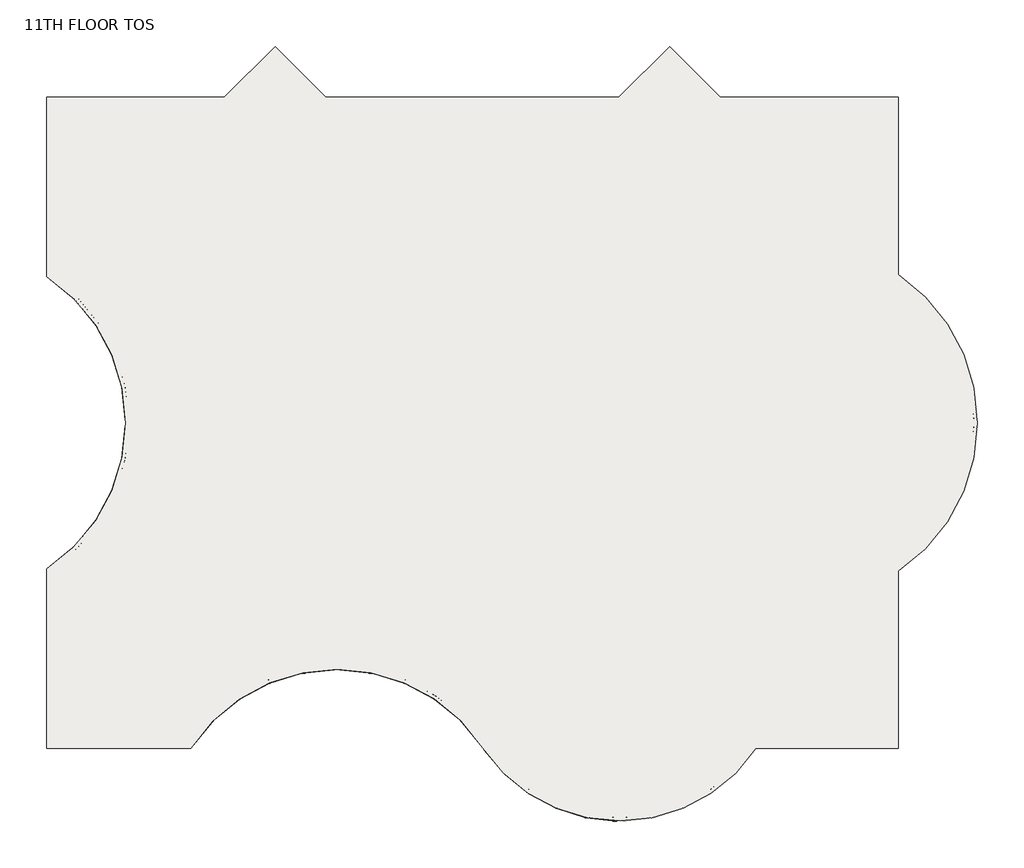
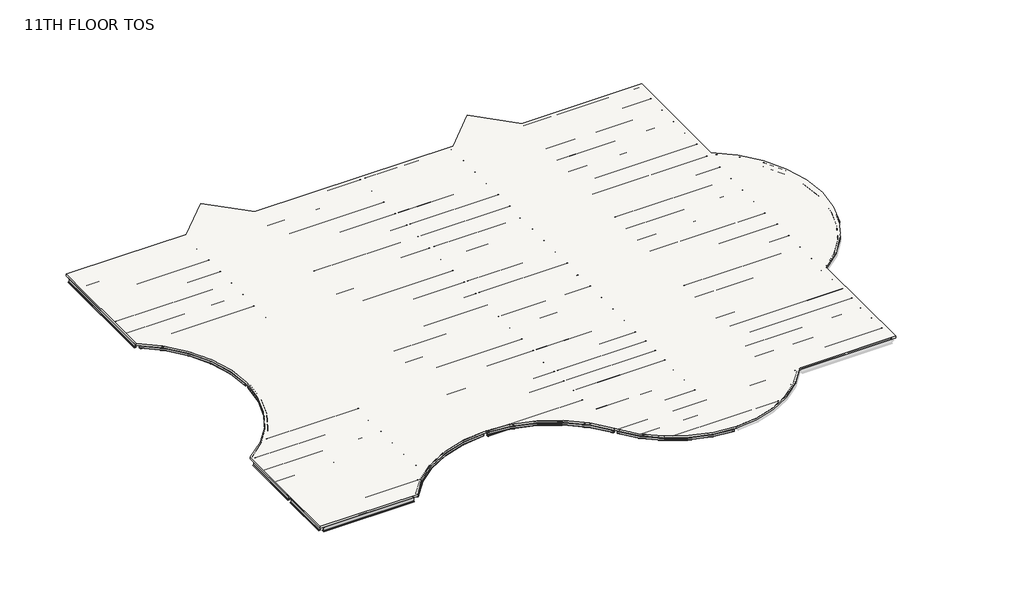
# One storey, part 1 of 2: 86 beams, 1 slab.
"""IFC4 building model written with IfcOpenShell, lengths in millimetres."""

from ifc_helpers import new_model, si_unit, frame, origin, place, context, project, spatial, polyline, circle_curve, transform, mapped, element, save
from ifc_brep_helpers import plane_surface, cylinder_surface, revolved_surface, advanced_brep
from components import m_hss_square_hss203_2x203_2x9_5_914ff4eb, m_hss_square_hss203_2x203_2x9_5_0e3d8e6e, m_hss_square_hss203_2x203_2x9_5_16dc1c03, m_hss_square_hss203_2x203_2x9_5_18346204, m_hss_square_hss203_2x203_2x9_5_d5f1e8c4, ub_universal_beams_ub254x102x28_4e7f3726, ub_universal_beams_ub305x165x40_c4d0385b, ub_universal_beams_ub305x165x40_d3abc31d, ub_universal_beams_ub305x165x40_0c73730f, ub_universal_beams_ub305x165x40_2a963f0c, ub_universal_beams_ub305x165x40_0a5f2f96, ub_universal_beams_ub305x165x40_d1f7c369, ub_universal_beams_ub305x165x40_83d7b7d5, ub_universal_beams_ub305x165x40_729a4ea5, ub_universal_beams_ub305x165x40_71dfa851, ub_universal_beams_ub305x165x40_619b5398, ub_universal_beams_ub305x165x40_c3492db1, ub_universal_beams_ub305x165x40_8f1c350d, ub_universal_beams_ub305x165x40_3afb5f90, ub_universal_beams_ub305x165x40_767d1929, ub_universal_beams_ub305x165x40_5941ca45, ub_universal_beams_ub356x171x51_ef72dcdd, ub_universal_beams_ub356x171x51_7f80702c, ub_universal_beams_ub356x171x51_dfc36663, ub_universal_beams_ub356x171x51_405a853e, ub_universal_beams_ub356x171x51_e47b7055, ub_universal_beams_ub356x171x51_e97f8d2e, ub_universal_beams_ub356x171x51_11d6b780, ub_universal_beams_ub356x171x51_76b2d20b, ub_universal_beams_ub356x171x51_145ecd4b, ub_universal_beams_ub356x171x51_c7dff8d2, ub_universal_beams_ub356x171x51_834c6e34, ub_universal_beams_ub356x171x51_a38b99de, ub_universal_beams_ub356x171x51_d8f4cdde, ub_universal_beams_ub356x171x51_8094f821, ub_universal_beams_ub356x171x51_e661f2e4, ub_universal_beams_ub356x171x51_3ee91673, ub_universal_beams_ub356x171x51_a871b283, ub_universal_beams_ub356x171x51_741bae58

model = new_model("IFC4")

# Units and contexts
model_context = context("Model", 3, world=origin())
ifc_project = project(units=[si_unit("LENGTHUNIT", "METRE", prefix="MILLI")], contexts=[model_context])

# Site, building, storey
site = spatial("IfcSite", under=ifc_project)
building = spatial("IfcBuilding", under=site)
storey = spatial("IfcBuildingStorey", under=building, Name="11TH FLOOR TOS", Elevation=50139.6)

# Beams
placement = place(None, origin())
m_hss_square_hss203_2x203_2x9_5_shape = m_hss_square_hss203_2x203_2x9_5_914ff4eb(model_context)
element("IfcBeam", 1, ObjectType="M_HSS Square : HSS203.2X203.2X9.5", at=placement, inside=storey, context=model_context, shape_type="MappedRepresentation", body=[
    mapped(m_hss_square_hss203_2x203_2x9_5_shape, transform((22710.575, 155.575, 50038.1), x_axis=(-0.552849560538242, 0.8332810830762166, 0.0), y_axis=(-0.8332810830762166, -0.552849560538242, 0.0), z_axis=(0.0, 0.0, 1.0))),
])
m_hss_square_hss203_2x203_2x9_5_2_shape = m_hss_square_hss203_2x203_2x9_5_0e3d8e6e(model_context)
element("IfcBeam", 2, ObjectType="M_HSS Square : HSS203.2X203.2X9.5", at=placement, inside=storey, context=model_context, shape_type="MappedRepresentation", body=[
    mapped(m_hss_square_hss203_2x203_2x9_5_2_shape, transform((155.575, 9299.575, 50038.1), x_axis=(0.8332810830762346, 0.5528495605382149, 0.0), y_axis=(-0.5528495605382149, 0.8332810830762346, 0.0), z_axis=(0.0, 0.0, 1.0))),
])
m_hss_square_hss203_2x203_2x9_5_3_shape = m_hss_square_hss203_2x203_2x9_5_16dc1c03(model_context)
element("IfcBeam", 3, ObjectType="M_HSS Square : HSS203.2X203.2X9.5", at=placement, inside=storey, context=model_context, shape_type="MappedRepresentation", body=[
    mapped(m_hss_square_hss203_2x203_2x9_5_3_shape, transform((155.575, 24539.575, 50038.1), x_axis=(0.8332810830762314, -0.5528495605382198, 0.0), y_axis=(0.5528495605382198, 0.8332810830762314, 0.0), z_axis=(0.0, 0.0, 1.0))),
])
m_hss_square_hss203_2x203_2x9_5_4_shape = m_hss_square_hss203_2x203_2x9_5_18346204(model_context)
element("IfcBeam", 4, ObjectType="M_HSS Square : HSS203.2X203.2X9.5", at=placement, inside=storey, context=model_context, shape_type="MappedRepresentation", body=[
    mapped(m_hss_square_hss203_2x203_2x9_5_4_shape, transform((29734.7266693, -3601.398624, 50038.1), x_axis=(-0.9999968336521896, -0.0025164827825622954, 0.0), y_axis=(0.0025164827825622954, -0.9999968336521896, 0.0), z_axis=(0.0, 0.0, 1.0))),
])
m_hss_square_hss203_2x203_2x9_5_5_shape = m_hss_square_hss203_2x203_2x9_5_d5f1e8c4(model_context)
element("IfcBeam", 5, ObjectType="M_HSS Square : HSS203.2X203.2X9.5", at=placement, inside=storey, context=model_context, shape_type="MappedRepresentation", body=[
    mapped(m_hss_square_hss203_2x203_2x9_5_5_shape, transform((15096.4572854, 4244.5731081, 50038.1), x_axis=(-0.9999997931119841, 0.0006432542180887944, 0.0), y_axis=(-0.0006432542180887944, -0.9999997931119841, 0.0), z_axis=(0.0, 0.0, 1.0))),
])
ub_universal_beams_ub254x102x28_shape = ub_universal_beams_ub254x102x28_4e7f3726(model_context)
element("IfcBeam", 6, ObjectType="UB-Universal Beams : UB254x102x28", at=placement, inside=storey, context=model_context, shape_type="MappedRepresentation", body=[
    mapped(ub_universal_beams_ub254x102x28_shape, transform((9299.575, 3210.915913, 50009.4), x_axis=(0.0, -1.0, 0.0), y_axis=(1.0, 0.0, 0.0), z_axis=(0.0, 0.0, 1.0))),
])
ub_universal_beams_ub305x165x40_shape = ub_universal_beams_ub305x165x40_c4d0385b(model_context)
element("IfcBeam", 7, ObjectType="UB-Universal Beams : UB305x165x40", at=placement, inside=storey, context=model_context, shape_type="MappedRepresentation", body=[
    mapped(ub_universal_beams_ub305x165x40_shape, transform((4727.575, 30635.575, 49987.9), x_axis=(1.0, 0.0, 0.0), y_axis=(0.0, 1.0, 0.0), z_axis=(0.0, 0.0, 1.0))),
])
element("IfcBeam", 8, ObjectType="UB-Universal Beams : UB305x165x40", at=placement, inside=storey, context=model_context, shape_type="MappedRepresentation", body=[
    mapped(ub_universal_beams_ub305x165x40_shape, transform((4727.575, 29111.575, 49987.9), x_axis=(1.0, 0.0, 0.0), y_axis=(0.0, 1.0, 0.0), z_axis=(0.0, 0.0, 1.0))),
])
element("IfcBeam", 9, ObjectType="UB-Universal Beams : UB305x165x40", at=placement, inside=storey, context=model_context, shape_type="MappedRepresentation", body=[
    mapped(ub_universal_beams_ub305x165x40_shape, transform((4727.575, 27587.575, 49987.9), x_axis=(1.0, 0.0, 0.0), y_axis=(0.0, 1.0, 0.0), z_axis=(0.0, 0.0, 1.0))),
])
element("IfcBeam", 10, ObjectType="UB-Universal Beams : UB305x165x40", at=placement, inside=storey, context=model_context, shape_type="MappedRepresentation", body=[
    mapped(ub_universal_beams_ub305x165x40_shape, transform((4727.575, 26063.575, 49987.9), x_axis=(1.0, 0.0, 0.0), y_axis=(0.0, 1.0, 0.0), z_axis=(0.0, 0.0, 1.0))),
])
element("IfcBeam", 11, ObjectType="UB-Universal Beams : UB305x165x40", at=placement, inside=storey, context=model_context, shape_type="MappedRepresentation", body=[
    mapped(ub_universal_beams_ub305x165x40_shape, transform((4727.575, 4727.575, 49987.9), x_axis=(-1.0, 0.0, 0.0), y_axis=(0.0, -1.0, 0.0), z_axis=(0.0, 0.0, 1.0))),
])
element("IfcBeam", 12, ObjectType="UB-Universal Beams : UB305x165x40", at=placement, inside=storey, context=model_context, shape_type="MappedRepresentation", body=[
    mapped(ub_universal_beams_ub305x165x40_shape, transform((4727.575, 6251.575, 49987.9), x_axis=(-1.0, 0.0, 0.0), y_axis=(0.0, -1.0, 0.0), z_axis=(0.0, 0.0, 1.0))),
])
element("IfcBeam", 13, ObjectType="UB-Universal Beams : UB305x165x40", at=placement, inside=storey, context=model_context, shape_type="MappedRepresentation", body=[
    mapped(ub_universal_beams_ub305x165x40_shape, transform((4727.575, 7775.575, 49987.9), x_axis=(-1.0, 0.0, 0.0), y_axis=(0.0, -1.0, 0.0), z_axis=(0.0, 0.0, 1.0))),
])
ub_universal_beams_ub305x165x40_2_shape = ub_universal_beams_ub305x165x40_d3abc31d(model_context)
element("IfcBeam", 14, ObjectType="UB-Universal Beams : UB305x165x40", at=placement, inside=storey, context=model_context, shape_type="MappedRepresentation", body=[
    mapped(ub_universal_beams_ub305x165x40_2_shape, transform((11885.575, 28938.325, 49987.9), x_axis=(1.0, 0.0, 0.0), y_axis=(0.0, 1.0, 0.0), z_axis=(0.0, 0.0, 1.0))),
])
element("IfcBeam", 15, ObjectType="UB-Universal Beams : UB305x165x40", at=placement, inside=storey, context=model_context, shape_type="MappedRepresentation", body=[
    mapped(ub_universal_beams_ub305x165x40_2_shape, transform((11885.575, 27472.075, 49987.9), x_axis=(1.0, 0.0, 0.0), y_axis=(0.0, 1.0, 0.0), z_axis=(0.0, 0.0, 1.0))),
])
element("IfcBeam", 16, ObjectType="UB-Universal Beams : UB305x165x40", at=placement, inside=storey, context=model_context, shape_type="MappedRepresentation", body=[
    mapped(ub_universal_beams_ub305x165x40_2_shape, transform((11885.575, 26005.825, 49987.9), x_axis=(1.0, 0.0, 0.0), y_axis=(0.0, 1.0, 0.0), z_axis=(0.0, 0.0, 1.0))),
])
element("IfcBeam", 17, ObjectType="UB-Universal Beams : UB305x165x40", at=placement, inside=storey, context=model_context, shape_type="MappedRepresentation", body=[
    mapped(ub_universal_beams_ub305x165x40_2_shape, transform((11885.575, 23015.575, 49987.9), x_axis=(1.0, 0.0, 0.0), y_axis=(0.0, 1.0, 0.0), z_axis=(0.0, 0.0, 1.0))),
])
element("IfcBeam", 18, ObjectType="UB-Universal Beams : UB305x165x40", at=placement, inside=storey, context=model_context, shape_type="MappedRepresentation", body=[
    mapped(ub_universal_beams_ub305x165x40_2_shape, transform((11885.575, 21491.575, 49987.9), x_axis=(1.0, 0.0, 0.0), y_axis=(0.0, 1.0, 0.0), z_axis=(0.0, 0.0, 1.0))),
])
element("IfcBeam", 19, ObjectType="UB-Universal Beams : UB305x165x40", at=placement, inside=storey, context=model_context, shape_type="MappedRepresentation", body=[
    mapped(ub_universal_beams_ub305x165x40_2_shape, transform((11885.575, 19967.575, 49987.9), x_axis=(1.0, 0.0, 0.0), y_axis=(0.0, 1.0, 0.0), z_axis=(0.0, 0.0, 1.0))),
])
element("IfcBeam", 20, ObjectType="UB-Universal Beams : UB305x165x40", at=placement, inside=storey, context=model_context, shape_type="MappedRepresentation", body=[
    mapped(ub_universal_beams_ub305x165x40_2_shape, transform((11885.575, 18443.575, 49987.9), x_axis=(1.0, 0.0, 0.0), y_axis=(0.0, 1.0, 0.0), z_axis=(0.0, 0.0, 1.0))),
])
element("IfcBeam", 21, ObjectType="UB-Universal Beams : UB305x165x40", at=placement, inside=storey, context=model_context, shape_type="MappedRepresentation", body=[
    mapped(ub_universal_beams_ub305x165x40_2_shape, transform((11885.575, 15395.575, 49987.9), x_axis=(1.0, 0.0, 0.0), y_axis=(0.0, 1.0, 0.0), z_axis=(0.0, 0.0, 1.0))),
])
element("IfcBeam", 22, ObjectType="UB-Universal Beams : UB305x165x40", at=placement, inside=storey, context=model_context, shape_type="MappedRepresentation", body=[
    mapped(ub_universal_beams_ub305x165x40_2_shape, transform((11885.575, 13871.575, 49987.9), x_axis=(1.0, 0.0, 0.0), y_axis=(0.0, 1.0, 0.0), z_axis=(0.0, 0.0, 1.0))),
])
element("IfcBeam", 23, ObjectType="UB-Universal Beams : UB305x165x40", at=placement, inside=storey, context=model_context, shape_type="MappedRepresentation", body=[
    mapped(ub_universal_beams_ub305x165x40_2_shape, transform((11885.575, 12347.575, 49987.9), x_axis=(1.0, 0.0, 0.0), y_axis=(0.0, 1.0, 0.0), z_axis=(0.0, 0.0, 1.0))),
])
element("IfcBeam", 24, ObjectType="UB-Universal Beams : UB305x165x40", at=placement, inside=storey, context=model_context, shape_type="MappedRepresentation", body=[
    mapped(ub_universal_beams_ub305x165x40_2_shape, transform((11885.575, 10823.575, 49987.9), x_axis=(1.0, 0.0, 0.0), y_axis=(0.0, 1.0, 0.0), z_axis=(0.0, 0.0, 1.0))),
])
element("IfcBeam", 25, ObjectType="UB-Universal Beams : UB305x165x40", at=placement, inside=storey, context=model_context, shape_type="MappedRepresentation", body=[
    mapped(ub_universal_beams_ub305x165x40_2_shape, transform((11885.575, 5026.1840956, 49987.9), x_axis=(-1.0, 0.0, 0.0), y_axis=(0.0, -1.0, 0.0), z_axis=(0.0, 0.0, 1.0))),
])
element("IfcBeam", 26, ObjectType="UB-Universal Beams : UB305x165x40", at=placement, inside=storey, context=model_context, shape_type="MappedRepresentation", body=[
    mapped(ub_universal_beams_ub305x165x40_2_shape, transform((11885.575, 6450.6477304, 49987.9), x_axis=(-1.0, 0.0, 0.0), y_axis=(0.0, -1.0, 0.0), z_axis=(0.0, 0.0, 1.0))),
])
element("IfcBeam", 27, ObjectType="UB-Universal Beams : UB305x165x40", at=placement, inside=storey, context=model_context, shape_type="MappedRepresentation", body=[
    mapped(ub_universal_beams_ub305x165x40_2_shape, transform((11885.575, 7875.1113652, 49987.9), x_axis=(-1.0, 0.0, 0.0), y_axis=(0.0, -1.0, 0.0), z_axis=(0.0, 0.0, 1.0))),
])
ub_universal_beams_ub305x165x40_3_shape = ub_universal_beams_ub305x165x40_0c73730f(model_context)
element("IfcBeam", 28, ObjectType="UB-Universal Beams : UB305x165x40", at=placement, inside=storey, context=model_context, shape_type="MappedRepresentation", body=[
    mapped(ub_universal_beams_ub305x165x40_3_shape, transform((18591.075, 5492.5943214, 49987.9), x_axis=(-1.0, 0.0, 0.0), y_axis=(0.0, -1.0, 0.0), z_axis=(0.0, 0.0, 1.0))),
])
element("IfcBeam", 29, ObjectType="UB-Universal Beams : UB305x165x40", at=placement, inside=storey, context=model_context, shape_type="MappedRepresentation", body=[
    mapped(ub_universal_beams_ub305x165x40_3_shape, transform((18591.075, 6761.5878809, 49987.9), x_axis=(-1.0, 0.0, 0.0), y_axis=(0.0, -1.0, 0.0), z_axis=(0.0, 0.0, 1.0))),
])
element("IfcBeam", 30, ObjectType="UB-Universal Beams : UB305x165x40", at=placement, inside=storey, context=model_context, shape_type="MappedRepresentation", body=[
    mapped(ub_universal_beams_ub305x165x40_3_shape, transform((18591.075, 8030.5814405, 49987.9), x_axis=(-1.0, 0.0, 0.0), y_axis=(0.0, -1.0, 0.0), z_axis=(0.0, 0.0, 1.0))),
])
element("IfcBeam", 31, ObjectType="UB-Universal Beams : UB305x165x40", at=placement, inside=storey, context=model_context, shape_type="MappedRepresentation", body=[
    mapped(ub_universal_beams_ub305x165x40_3_shape, transform((18591.075, 15395.575, 49987.9), x_axis=(1.0, 0.0, 0.0), y_axis=(0.0, 1.0, 0.0), z_axis=(0.0, 0.0, 1.0))),
])
element("IfcBeam", 32, ObjectType="UB-Universal Beams : UB305x165x40", at=placement, inside=storey, context=model_context, shape_type="MappedRepresentation", body=[
    mapped(ub_universal_beams_ub305x165x40_3_shape, transform((18591.075, 13871.575, 49987.9), x_axis=(1.0, 0.0, 0.0), y_axis=(0.0, 1.0, 0.0), z_axis=(0.0, 0.0, 1.0))),
])
element("IfcBeam", 33, ObjectType="UB-Universal Beams : UB305x165x40", at=placement, inside=storey, context=model_context, shape_type="MappedRepresentation", body=[
    mapped(ub_universal_beams_ub305x165x40_3_shape, transform((18591.075, 12347.575, 49987.9), x_axis=(1.0, 0.0, 0.0), y_axis=(0.0, 1.0, 0.0), z_axis=(0.0, 0.0, 1.0))),
])
element("IfcBeam", 34, ObjectType="UB-Universal Beams : UB305x165x40", at=placement, inside=storey, context=model_context, shape_type="MappedRepresentation", body=[
    mapped(ub_universal_beams_ub305x165x40_3_shape, transform((18591.075, 10823.575, 49987.9), x_axis=(1.0, 0.0, 0.0), y_axis=(0.0, 1.0, 0.0), z_axis=(0.0, 0.0, 1.0))),
])
ub_universal_beams_ub305x165x40_4_shape = ub_universal_beams_ub305x165x40_2a963f0c(model_context)
element("IfcBeam", 35, ObjectType="UB-Universal Beams : UB305x165x40", at=placement, inside=storey, context=model_context, shape_type="MappedRepresentation", body=[
    mapped(ub_universal_beams_ub305x165x40_4_shape, transform((26211.075, 15395.575, 49987.9), x_axis=(1.0, 0.0, 0.0), y_axis=(0.0, 1.0, 0.0), z_axis=(0.0, 0.0, 1.0))),
])
element("IfcBeam", 36, ObjectType="UB-Universal Beams : UB305x165x40", at=placement, inside=storey, context=model_context, shape_type="MappedRepresentation", body=[
    mapped(ub_universal_beams_ub305x165x40_4_shape, transform((26211.075, 13871.575, 49987.9), x_axis=(1.0, 0.0, 0.0), y_axis=(0.0, 1.0, 0.0), z_axis=(0.0, 0.0, 1.0))),
])
element("IfcBeam", 37, ObjectType="UB-Universal Beams : UB305x165x40", at=placement, inside=storey, context=model_context, shape_type="MappedRepresentation", body=[
    mapped(ub_universal_beams_ub305x165x40_4_shape, transform((26211.075, 12347.575, 49987.9), x_axis=(1.0, 0.0, 0.0), y_axis=(0.0, 1.0, 0.0), z_axis=(0.0, 0.0, 1.0))),
])
element("IfcBeam", 38, ObjectType="UB-Universal Beams : UB305x165x40", at=placement, inside=storey, context=model_context, shape_type="MappedRepresentation", body=[
    mapped(ub_universal_beams_ub305x165x40_4_shape, transform((26211.075, 10823.575, 49987.9), x_axis=(1.0, 0.0, 0.0), y_axis=(0.0, 1.0, 0.0), z_axis=(0.0, 0.0, 1.0))),
])
element("IfcBeam", 39, ObjectType="UB-Universal Beams : UB305x165x40", at=placement, inside=storey, context=model_context, shape_type="MappedRepresentation", body=[
    mapped(ub_universal_beams_ub305x165x40_4_shape, transform((26211.075, 5508.325, 49987.9), x_axis=(-1.0, 0.0, 0.0), y_axis=(0.0, -1.0, 0.0), z_axis=(0.0, 0.0, 1.0))),
])
element("IfcBeam", 40, ObjectType="UB-Universal Beams : UB305x165x40", at=placement, inside=storey, context=model_context, shape_type="MappedRepresentation", body=[
    mapped(ub_universal_beams_ub305x165x40_4_shape, transform((26211.075, 6772.075, 49987.9), x_axis=(-1.0, 0.0, 0.0), y_axis=(0.0, -1.0, 0.0), z_axis=(0.0, 0.0, 1.0))),
])
element("IfcBeam", 41, ObjectType="UB-Universal Beams : UB305x165x40", at=placement, inside=storey, context=model_context, shape_type="MappedRepresentation", body=[
    mapped(ub_universal_beams_ub305x165x40_4_shape, transform((26211.075, 8035.825, 49987.9), x_axis=(-1.0, 0.0, 0.0), y_axis=(0.0, -1.0, 0.0), z_axis=(0.0, 0.0, 1.0))),
])
element("IfcBeam", 42, ObjectType="UB-Universal Beams : UB305x165x40", at=placement, inside=storey, context=model_context, shape_type="MappedRepresentation", body=[
    mapped(ub_universal_beams_ub305x165x40_4_shape, transform((26211.075, 1518.575, 49987.9), x_axis=(-1.0, 0.0, 0.0), y_axis=(0.0, -1.0, 0.0), z_axis=(0.0, 0.0, 1.0))),
])
element("IfcBeam", 43, ObjectType="UB-Universal Beams : UB305x165x40", at=placement, inside=storey, context=model_context, shape_type="MappedRepresentation", body=[
    mapped(ub_universal_beams_ub305x165x40_4_shape, transform((26211.075, 2881.575, 49987.9), x_axis=(-1.0, 0.0, 0.0), y_axis=(0.0, -1.0, 0.0), z_axis=(0.0, 0.0, 1.0))),
])
ub_universal_beams_ub305x165x40_5_shape = ub_universal_beams_ub305x165x40_0a5f2f96(model_context)
element("IfcBeam", 44, ObjectType="UB-Universal Beams : UB305x165x40", at=placement, inside=storey, context=model_context, shape_type="MappedRepresentation", body=[
    mapped(ub_universal_beams_ub305x165x40_5_shape, transform((29713.575, -2349.0918253, 49987.9), x_axis=(-1.0, 0.0, 0.0), y_axis=(0.0, -1.0, 0.0), z_axis=(0.0, 0.0, 1.0))),
])
ub_universal_beams_ub305x165x40_6_shape = ub_universal_beams_ub305x165x40_d1f7c369(model_context)
element("IfcBeam", 45, ObjectType="UB-Universal Beams : UB305x165x40", at=placement, inside=storey, context=model_context, shape_type="MappedRepresentation", body=[
    mapped(ub_universal_beams_ub305x165x40_6_shape, transform((29713.575, -1096.7584126, 49987.9), x_axis=(-1.0, 0.0, 0.0), y_axis=(0.0, -1.0, 0.0), z_axis=(0.0, 0.0, 1.0))),
])
ub_universal_beams_ub305x165x40_7_shape = ub_universal_beams_ub305x165x40_83d7b7d5(model_context)
element("IfcBeam", 46, ObjectType="UB-Universal Beams : UB305x165x40", at=placement, inside=storey, context=model_context, shape_type="MappedRepresentation", body=[
    mapped(ub_universal_beams_ub305x165x40_7_shape, transform((22157.3041106, 1518.575, 49987.9), x_axis=(-1.0, 0.0, 0.0), y_axis=(0.0, -1.0, 0.0), z_axis=(0.0, 0.0, 1.0))),
])
ub_universal_beams_ub305x165x40_8_shape = ub_universal_beams_ub305x165x40_729a4ea5(model_context)
element("IfcBeam", 47, ObjectType="UB-Universal Beams : UB305x165x40", at=placement, inside=storey, context=model_context, shape_type="MappedRepresentation", body=[
    mapped(ub_universal_beams_ub305x165x40_8_shape, transform((21302.1545844, 2881.575, 49987.9), x_axis=(-1.0, 0.0, 0.0), y_axis=(0.0, -1.0, 0.0), z_axis=(0.0, 0.0, 1.0))),
])
ub_universal_beams_ub305x165x40_9_shape = ub_universal_beams_ub305x165x40_71dfa851(model_context)
element("IfcBeam", 48, ObjectType="UB-Universal Beams : UB305x165x40", at=placement, inside=storey, context=model_context, shape_type="MappedRepresentation", body=[
    mapped(ub_universal_beams_ub305x165x40_9_shape, transform((10511.0323166, 3601.7204608, 49987.9), x_axis=(-1.0, 0.0, 0.0), y_axis=(0.0, -1.0, 0.0), z_axis=(0.0, 0.0, 1.0))),
])
ub_universal_beams_ub305x165x40_10_shape = ub_universal_beams_ub305x165x40_619b5398(model_context)
element("IfcBeam", 49, ObjectType="UB-Universal Beams : UB305x165x40", at=placement, inside=storey, context=model_context, shape_type="MappedRepresentation", body=[
    mapped(ub_universal_beams_ub305x165x40_10_shape, transform((4447.6838282, 1679.575, 49987.9), x_axis=(-1.0, 0.0, 0.0), y_axis=(0.0, -1.0, 0.0), z_axis=(0.0, 0.0, 1.0))),
])
ub_universal_beams_ub305x165x40_11_shape = ub_universal_beams_ub305x165x40_c3492db1(model_context)
element("IfcBeam", 50, ObjectType="UB-Universal Beams : UB305x165x40", at=placement, inside=storey, context=model_context, shape_type="MappedRepresentation", body=[
    mapped(ub_universal_beams_ub305x165x40_11_shape, transform((4727.575, 3203.575, 49987.9), x_axis=(-1.0, 0.0, 0.0), y_axis=(0.0, -1.0, 0.0), z_axis=(0.0, 0.0, 1.0))),
])
ub_universal_beams_ub305x165x40_12_shape = ub_universal_beams_ub305x165x40_8f1c350d(model_context)
element("IfcBeam", 51, ObjectType="UB-Universal Beams : UB305x165x40", at=placement, inside=storey, context=model_context, shape_type="MappedRepresentation", body=[
    mapped(ub_universal_beams_ub305x165x40_12_shape, transform((6708.1318611, 15395.575, 49987.9), x_axis=(1.0, 0.0, 0.0), y_axis=(0.0, 1.0, 0.0), z_axis=(0.0, 0.0, 1.0))),
])
element("IfcBeam", 52, ObjectType="UB-Universal Beams : UB305x165x40", at=placement, inside=storey, context=model_context, shape_type="MappedRepresentation", body=[
    mapped(ub_universal_beams_ub305x165x40_12_shape, transform((6708.1318611, 18443.575, 49987.9), x_axis=(1.0, 0.0, 0.0), y_axis=(0.0, 1.0, 0.0), z_axis=(0.0, 0.0, 1.0))),
])
ub_universal_beams_ub305x165x40_13_shape = ub_universal_beams_ub305x165x40_3afb5f90(model_context)
element("IfcBeam", 53, ObjectType="UB-Universal Beams : UB305x165x40", at=placement, inside=storey, context=model_context, shape_type="MappedRepresentation", body=[
    mapped(ub_universal_beams_ub305x165x40_13_shape, transform((6510.6153272, 13871.575, 49987.9), x_axis=(1.0, 0.0, 0.0), y_axis=(0.0, 1.0, 0.0), z_axis=(0.0, 0.0, 1.0))),
])
element("IfcBeam", 54, ObjectType="UB-Universal Beams : UB305x165x40", at=placement, inside=storey, context=model_context, shape_type="MappedRepresentation", body=[
    mapped(ub_universal_beams_ub305x165x40_13_shape, transform((6510.6153272, 19967.575, 49987.9), x_axis=(1.0, 0.0, 0.0), y_axis=(0.0, 1.0, 0.0), z_axis=(0.0, 0.0, 1.0))),
])
ub_universal_beams_ub305x165x40_14_shape = ub_universal_beams_ub305x165x40_767d1929(model_context)
element("IfcBeam", 55, ObjectType="UB-Universal Beams : UB305x165x40", at=placement, inside=storey, context=model_context, shape_type="MappedRepresentation", body=[
    mapped(ub_universal_beams_ub305x165x40_14_shape, transform((6159.5874928, 12347.575, 49987.9), x_axis=(1.0, 0.0, 0.0), y_axis=(0.0, 1.0, 0.0), z_axis=(0.0, 0.0, 1.0))),
])
element("IfcBeam", 56, ObjectType="UB-Universal Beams : UB305x165x40", at=placement, inside=storey, context=model_context, shape_type="MappedRepresentation", body=[
    mapped(ub_universal_beams_ub305x165x40_14_shape, transform((6159.5874928, 21491.575, 49987.9), x_axis=(1.0, 0.0, 0.0), y_axis=(0.0, 1.0, 0.0), z_axis=(0.0, 0.0, 1.0))),
])
ub_universal_beams_ub305x165x40_15_shape = ub_universal_beams_ub305x165x40_5941ca45(model_context)
element("IfcBeam", 57, ObjectType="UB-Universal Beams : UB305x165x40", at=placement, inside=storey, context=model_context, shape_type="MappedRepresentation", body=[
    mapped(ub_universal_beams_ub305x165x40_15_shape, transform((5607.9405309, 10823.575, 49987.9), x_axis=(1.0, 0.0, 0.0), y_axis=(0.0, 1.0, 0.0), z_axis=(0.0, 0.0, 1.0))),
])
element("IfcBeam", 58, ObjectType="UB-Universal Beams : UB305x165x40", at=placement, inside=storey, context=model_context, shape_type="MappedRepresentation", body=[
    mapped(ub_universal_beams_ub305x165x40_15_shape, transform((5607.9405309, 23015.575, 49987.9), x_axis=(1.0, 0.0, 0.0), y_axis=(0.0, 1.0, 0.0), z_axis=(0.0, 0.0, 1.0))),
])
ub_universal_beams_ub356x171x51_shape = ub_universal_beams_ub356x171x51_ef72dcdd(model_context)
element("IfcBeam", 59, ObjectType="UB-Universal Beams : UB356x171x51", at=placement, inside=storey, context=model_context, shape_type="MappedRepresentation", body=[
    mapped(ub_universal_beams_ub356x171x51_shape, transform((9299.575, 6772.075, 49962.1), x_axis=(0.0, -1.0, 0.0), y_axis=(1.0, 0.0, 0.0), z_axis=(0.0, 0.0, 1.0))),
])
element("IfcBeam", 60, ObjectType="UB-Universal Beams : UB356x171x51", at=placement, inside=storey, context=model_context, shape_type="MappedRepresentation", body=[
    mapped(ub_universal_beams_ub356x171x51_shape, transform((29711.575, 6772.075, 49962.1), x_axis=(0.0, 1.0, 0.0), y_axis=(-1.0, 0.0, 0.0), z_axis=(0.0, 0.0, 1.0))),
])
element("IfcBeam", 61, ObjectType="UB-Universal Beams : UB356x171x51", at=placement, inside=storey, context=model_context, shape_type="MappedRepresentation", body=[
    mapped(ub_universal_beams_ub356x171x51_shape, transform((22710.575, 6772.075, 49962.1), x_axis=(0.0, -1.0, 0.0), y_axis=(1.0, 0.0, 0.0), z_axis=(0.0, 0.0, 1.0))),
])
ub_universal_beams_ub356x171x51_2_shape = ub_universal_beams_ub356x171x51_7f80702c(model_context)
element("IfcBeam", 62, ObjectType="UB-Universal Beams : UB356x171x51", at=placement, inside=storey, context=model_context, shape_type="MappedRepresentation", body=[
    mapped(ub_universal_beams_ub356x171x51_2_shape, transform((3813.075, 155.575, 49962.1), x_axis=(-1.0, 0.0, 0.0), y_axis=(0.0, -1.0, 0.0), z_axis=(0.0, 0.0, 1.0))),
])
ub_universal_beams_ub356x171x51_3_shape = ub_universal_beams_ub356x171x51_dfc36663(model_context)
element("IfcBeam", 63, ObjectType="UB-Universal Beams : UB356x171x51", at=placement, inside=storey, context=model_context, shape_type="MappedRepresentation", body=[
    mapped(ub_universal_beams_ub356x171x51_3_shape, transform((155.575, 2200.075, 49962.1), x_axis=(0.0, 1.0, 0.0), y_axis=(-1.0, 0.0, 0.0), z_axis=(0.0, 0.0, 1.0))),
])
ub_universal_beams_ub356x171x51_4_shape = ub_universal_beams_ub356x171x51_405a853e(model_context)
element("IfcBeam", 64, ObjectType="UB-Universal Beams : UB356x171x51", at=placement, inside=storey, context=model_context, shape_type="MappedRepresentation", body=[
    mapped(ub_universal_beams_ub356x171x51_4_shape, transform((155.575, 6772.075, 49962.1), x_axis=(0.0, 1.0, 0.0), y_axis=(-1.0, 0.0, 0.0), z_axis=(0.0, 0.0, 1.0))),
])
ub_universal_beams_ub356x171x51_5_shape = ub_universal_beams_ub356x171x51_e47b7055(model_context)
element("IfcBeam", 65, ObjectType="UB-Universal Beams : UB356x171x51", at=placement, inside=storey, context=model_context, shape_type="MappedRepresentation", body=[
    mapped(ub_universal_beams_ub356x171x51_5_shape, transform((155.575, 29111.575, 49962.1), x_axis=(0.0, 1.0, 0.0), y_axis=(-1.0, 0.0, 0.0), z_axis=(0.0, 0.0, 1.0))),
])
ub_universal_beams_ub356x171x51_6_shape = ub_universal_beams_ub356x171x51_e97f8d2e(model_context)
element("IfcBeam", 66, ObjectType="UB-Universal Beams : UB356x171x51", at=placement, inside=storey, context=model_context, shape_type="MappedRepresentation", body=[
    mapped(ub_universal_beams_ub356x171x51_6_shape, transform((4727.575, 24539.575, 49962.1), x_axis=(1.0, 0.0, 0.0), y_axis=(0.0, 1.0, 0.0), z_axis=(0.0, 0.0, 1.0))),
])
ub_universal_beams_ub356x171x51_7_shape = ub_universal_beams_ub356x171x51_11d6b780(model_context)
element("IfcBeam", 67, ObjectType="UB-Universal Beams : UB356x171x51", at=placement, inside=storey, context=model_context, shape_type="MappedRepresentation", body=[
    mapped(ub_universal_beams_ub356x171x51_7_shape, transform((11885.575, 24539.575, 49962.1), x_axis=(1.0, 0.0, 0.0), y_axis=(0.0, 1.0, 0.0), z_axis=(0.0, 0.0, 1.0))),
])
element("IfcBeam", 68, ObjectType="UB-Universal Beams : UB356x171x51", at=placement, inside=storey, context=model_context, shape_type="MappedRepresentation", body=[
    mapped(ub_universal_beams_ub356x171x51_7_shape, transform((11885.575, 9299.575, 49962.1), x_axis=(-1.0, 0.0, 0.0), y_axis=(0.0, -1.0, 0.0), z_axis=(0.0, 0.0, 1.0))),
])
element("IfcBeam", 69, ObjectType="UB-Universal Beams : UB356x171x51", at=placement, inside=storey, context=model_context, shape_type="MappedRepresentation", body=[
    mapped(ub_universal_beams_ub356x171x51_7_shape, transform((11885.575, 16919.575, 49962.1), x_axis=(1.0, 0.0, 0.0), y_axis=(0.0, 1.0, 0.0), z_axis=(0.0, 0.0, 1.0))),
])
ub_universal_beams_ub356x171x51_8_shape = ub_universal_beams_ub356x171x51_76b2d20b(model_context)
element("IfcBeam", 70, ObjectType="UB-Universal Beams : UB356x171x51", at=placement, inside=storey, context=model_context, shape_type="MappedRepresentation", body=[
    mapped(ub_universal_beams_ub356x171x51_8_shape, transform((18591.075, 9299.575, 49962.1), x_axis=(-1.0, 0.0, 0.0), y_axis=(0.0, -1.0, 0.0), z_axis=(0.0, 0.0, 1.0))),
])
ub_universal_beams_ub356x171x51_9_shape = ub_universal_beams_ub356x171x51_145ecd4b(model_context)
element("IfcBeam", 71, ObjectType="UB-Universal Beams : UB356x171x51", at=placement, inside=storey, context=model_context, shape_type="MappedRepresentation", body=[
    mapped(ub_universal_beams_ub356x171x51_9_shape, transform((26211.075, 9299.575, 49962.1), x_axis=(-1.0, 0.0, 0.0), y_axis=(0.0, -1.0, 0.0), z_axis=(0.0, 0.0, 1.0))),
])
element("IfcBeam", 72, ObjectType="UB-Universal Beams : UB356x171x51", at=placement, inside=storey, context=model_context, shape_type="MappedRepresentation", body=[
    mapped(ub_universal_beams_ub356x171x51_9_shape, transform((26211.075, 4244.575, 49962.1), x_axis=(-1.0, 0.0, 0.0), y_axis=(0.0, -1.0, 0.0), z_axis=(0.0, 0.0, 1.0))),
])
ub_universal_beams_ub356x171x51_10_shape = ub_universal_beams_ub356x171x51_c7dff8d2(model_context)
element("IfcBeam", 73, ObjectType="UB-Universal Beams : UB356x171x51", at=placement, inside=storey, context=model_context, shape_type="MappedRepresentation", body=[
    mapped(ub_universal_beams_ub356x171x51_10_shape, transform((4727.575, 9299.575, 49962.1), x_axis=(-1.0, 0.0, 0.0), y_axis=(0.0, -1.0, 0.0), z_axis=(0.0, 0.0, 1.0))),
])
ub_universal_beams_ub356x171x51_11_shape = ub_universal_beams_ub356x171x51_834c6e34(model_context)
element("IfcBeam", 74, ObjectType="UB-Universal Beams : UB356x171x51", at=placement, inside=storey, context=model_context, shape_type="MappedRepresentation", body=[
    mapped(ub_universal_beams_ub356x171x51_11_shape, transform((14471.575, 6761.5878809, 49962.1), x_axis=(0.0, -1.0, 0.0), y_axis=(1.0, 0.0, 0.0), z_axis=(0.0, 0.0, 1.0))),
])
ub_universal_beams_ub356x171x51_12_shape = ub_universal_beams_ub356x171x51_a38b99de(model_context)
element("IfcBeam", 75, ObjectType="UB-Universal Beams : UB356x171x51", at=placement, inside=storey, context=model_context, shape_type="MappedRepresentation", body=[
    mapped(ub_universal_beams_ub356x171x51_12_shape, transform((9299.575, 13109.575, 49962.1), x_axis=(0.0, 1.0, 0.0), y_axis=(-1.0, 0.0, 0.0), z_axis=(0.0, 0.0, 1.0))),
])
element("IfcBeam", 76, ObjectType="UB-Universal Beams : UB356x171x51", at=placement, inside=storey, context=model_context, shape_type="MappedRepresentation", body=[
    mapped(ub_universal_beams_ub356x171x51_12_shape, transform((9299.575, 20729.575, 49962.1), x_axis=(0.0, 1.0, 0.0), y_axis=(-1.0, 0.0, 0.0), z_axis=(0.0, 0.0, 1.0))),
])
element("IfcBeam", 77, ObjectType="UB-Universal Beams : UB356x171x51", at=placement, inside=storey, context=model_context, shape_type="MappedRepresentation", body=[
    mapped(ub_universal_beams_ub356x171x51_12_shape, transform((14471.575, 20729.575, 49962.1), x_axis=(0.0, -1.0, 0.0), y_axis=(1.0, 0.0, 0.0), z_axis=(0.0, 0.0, 1.0))),
])
element("IfcBeam", 78, ObjectType="UB-Universal Beams : UB356x171x51", at=placement, inside=storey, context=model_context, shape_type="MappedRepresentation", body=[
    mapped(ub_universal_beams_ub356x171x51_12_shape, transform((14471.575, 13109.575, 49962.1), x_axis=(0.0, -1.0, 0.0), y_axis=(1.0, 0.0, 0.0), z_axis=(0.0, 0.0, 1.0))),
])
element("IfcBeam", 79, ObjectType="UB-Universal Beams : UB356x171x51", at=placement, inside=storey, context=model_context, shape_type="MappedRepresentation", body=[
    mapped(ub_universal_beams_ub356x171x51_12_shape, transform((22710.575, 13109.575, 49962.1), x_axis=(0.0, -1.0, 0.0), y_axis=(1.0, 0.0, 0.0), z_axis=(0.0, 0.0, 1.0))),
])
element("IfcBeam", 80, ObjectType="UB-Universal Beams : UB356x171x51", at=placement, inside=storey, context=model_context, shape_type="MappedRepresentation", body=[
    mapped(ub_universal_beams_ub356x171x51_12_shape, transform((29711.575, 13109.575, 49962.1), x_axis=(0.0, 1.0, 0.0), y_axis=(-1.0, 0.0, 0.0), z_axis=(0.0, 0.0, 1.0))),
])
ub_universal_beams_ub356x171x51_13_shape = ub_universal_beams_ub356x171x51_d8f4cdde(model_context)
element("IfcBeam", 81, ObjectType="UB-Universal Beams : UB356x171x51", at=placement, inside=storey, context=model_context, shape_type="MappedRepresentation", body=[
    mapped(ub_universal_beams_ub356x171x51_13_shape, transform((9299.575, 29111.575, 49962.1), x_axis=(0.0, 1.0, 0.0), y_axis=(-1.0, 0.0, 0.0), z_axis=(0.0, 0.0, 1.0))),
])
ub_universal_beams_ub356x171x51_14_shape = ub_universal_beams_ub356x171x51_8094f821(model_context)
element("IfcBeam", 82, ObjectType="UB-Universal Beams : UB356x171x51", at=placement, inside=storey, context=model_context, shape_type="MappedRepresentation", body=[
    mapped(ub_universal_beams_ub356x171x51_14_shape, transform((6772.075, 16919.575, 49962.1), x_axis=(1.0, 0.0, 0.0), y_axis=(0.0, 1.0, 0.0), z_axis=(0.0, 0.0, 1.0))),
])
ub_universal_beams_ub356x171x51_15_shape = ub_universal_beams_ub356x171x51_e661f2e4(model_context)
element("IfcBeam", 83, ObjectType="UB-Universal Beams : UB356x171x51", at=placement, inside=storey, context=model_context, shape_type="MappedRepresentation", body=[
    mapped(ub_universal_beams_ub356x171x51_15_shape, transform((29713.575, 155.575, 49962.1), x_axis=(-1.0, 0.0, 0.0), y_axis=(0.0, -1.0, 0.0), z_axis=(0.0, 0.0, 1.0))),
])
ub_universal_beams_ub356x171x51_16_shape = ub_universal_beams_ub356x171x51_3ee91673(model_context)
element("IfcBeam", 84, ObjectType="UB-Universal Beams : UB356x171x51", at=placement, inside=storey, context=model_context, shape_type="MappedRepresentation", body=[
    mapped(ub_universal_beams_ub356x171x51_16_shape, transform((18900.575, 4244.575, 49962.1), x_axis=(-1.0, 0.0, 0.0), y_axis=(0.0, -1.0, 0.0), z_axis=(0.0, 0.0, 1.0))),
])
ub_universal_beams_ub356x171x51_17_shape = ub_universal_beams_ub356x171x51_a871b283(model_context)
element("IfcBeam", 85, ObjectType="UB-Universal Beams : UB356x171x51", at=placement, inside=storey, context=model_context, shape_type="MappedRepresentation", body=[
    mapped(ub_universal_beams_ub356x171x51_17_shape, transform((22710.575, 2200.075, 49962.1), x_axis=(0.0, -1.0, 0.0), y_axis=(1.0, 0.0, 0.0), z_axis=(0.0, 0.0, 1.0))),
])
ub_universal_beams_ub356x171x51_18_shape = ub_universal_beams_ub356x171x51_741bae58(model_context)
element("IfcBeam", 86, ObjectType="UB-Universal Beams : UB356x171x51", at=placement, inside=storey, context=model_context, shape_type="MappedRepresentation", body=[
    mapped(ub_universal_beams_ub356x171x51_18_shape, transform((29711.575, 2200.075, 49962.1), x_axis=(0.0, -1.0, 0.0), y_axis=(1.0, 0.0, 0.0), z_axis=(0.0, 0.0, 1.0))),
])

# Slab
element("IfcSlab", 87, ObjectType="152mm Concrete With 50mm Metal Deck", at=placement, inside=storey, context=model_context, shape_type="AdvancedBrep", body=[
    advanced_brep(
    [(69.575, 33769.575, 50139.6), (4244.575, 33769.575, 50139.6), (9263.9526336, 33769.575, 50139.6), (11885.575, 36391.1973664, 50139.6), (14507.1973664, 33769.575, 50139.6), (22710.575, 33769.575, 50139.6), (29675.9526336, 33769.575, 50139.6), (32297.575, 36391.1973664, 50139.6), (34919.1973664, 33769.575, 50139.6), (44113.575, 33769.575, 50139.6), (44113.575, 24585.5849139, 50139.6), (44113.575, 9253.5650861, 50139.6), (44113.575, 4244.575, 50139.6), (44113.575, 69.575, 50139.6), (36762.5616677, 69.575, 50139.6), (29734.9430869, -3687.3983517, 50139.6), (22638.9224102, 108.0154965, 50139.6), (15096.4019655, 4158.5731259, 50139.6), (7516.8644167, 69.575, 50139.6), (69.575, 69.575, 50139.6), (69.575, 4244.575, 50139.6), (69.575, 9345.8644167, 50139.6), (69.575, 24493.2855833, 50139.6), (69.575, 33769.575, 50291.6), (69.575, 24493.2855833, 50291.6), (69.575, 9345.8644167, 50291.6), (69.575, 4244.575, 50291.6), (69.575, 69.575, 50291.6), (7516.8644167, 69.575, 50291.6), (15096.4019655, 4158.5731259, 50291.6), (22638.9128269, 108.0299378, 50291.6), (29734.9430869, -3687.3983517, 50291.6), (36762.5616677, 69.575, 50291.6), (44113.575, 69.575, 50291.6), (44113.575, 4244.575, 50291.6), (44113.575, 9253.5650861, 50291.6), (44113.575, 24585.5849139, 50291.6), (44113.575, 33769.575, 50291.6), (34919.1973664, 33769.575, 50291.6), (32297.575, 36391.1973664, 50291.6), (29675.9526336, 33769.575, 50291.6), (22710.575, 33769.575, 50291.6), (14507.1973664, 33769.575, 50291.6), (11885.575, 36391.1973664, 50291.6), (9263.9526336, 33769.575, 50291.6), (4244.575, 33769.575, 50291.6)],
    [
        (0, 1),
        (1, 2),
        (2, 3),
        (3, 4),
        (4, 5),
        (5, 6),
        (6, 7),
        (7, 8),
        (8, 9),
        (9, 10),
        (10, 11, circle_curve(frame((38972.0016324, 16919.575, 50139.6), z_axis=(0.0, 0.0, -1.0), x_axis=(1.0, 0.0, 0.0)), 9230.5733676)),
        (11, 12),
        (12, 13),
        (13, 14),
        (14, 15, circle_curve(frame((29713.575, 4803.825732, 50139.6), z_axis=(0.0, 0.0, -1.0), x_axis=(1.0, 0.0, 0.0)), 8491.2509699)),
        (15, 16, circle_curve(frame((29713.575, 4803.825732, 50139.6), z_axis=(0.0, 0.0, -1.0), x_axis=(1.0, 0.0, 0.0)), 8491.2509699)),
        (16, 17, circle_curve(frame((15090.575, -4899.9983676, 50139.6), z_axis=(0.0, 0.0, 1.0), x_axis=(1.0, 0.0, 0.0)), 9058.5733676)),
        (17, 18, circle_curve(frame((15090.575, -4899.9983676, 50139.6), z_axis=(0.0, 0.0, 1.0), x_axis=(1.0, 0.0, 0.0)), 9058.5733676)),
        (18, 19),
        (19, 20),
        (20, 21),
        (21, 22, circle_curve(frame((-4899.9983676, 16919.575, 50139.6), z_axis=(0.0, 0.0, 1.0), x_axis=(1.0, 0.0, 0.0)), 9058.5733676)),
        (22, 0),
        (23, 24),
        (24, 25, circle_curve(frame((-4899.9983676, 16919.575, 50291.6), z_axis=(0.0, 0.0, -1.0), x_axis=(1.0, 0.0, 0.0)), 9058.5733676)),
        (25, 26),
        (26, 27),
        (27, 28),
        (28, 29, circle_curve(frame((15090.575, -4899.9983676, 50291.6), z_axis=(0.0, 0.0, -1.0), x_axis=(1.0, 0.0, 0.0)), 9058.5733676)),
        (29, 30, circle_curve(frame((15090.575, -4899.9983676, 50291.6), z_axis=(0.0, 0.0, -1.0), x_axis=(1.0, 0.0, 0.0)), 9058.5733676)),
        (30, 31, circle_curve(frame((29713.575, 4803.825732, 50291.6), z_axis=(0.0, 0.0, 1.0), x_axis=(1.0, 0.0, 0.0)), 8491.2509699)),
        (31, 32, circle_curve(frame((29713.575, 4803.825732, 50291.6), z_axis=(0.0, 0.0, 1.0), x_axis=(1.0, 0.0, 0.0)), 8491.2509699)),
        (32, 33),
        (33, 34),
        (34, 35),
        (35, 36, circle_curve(frame((38972.0016324, 16919.575, 50291.6), z_axis=(0.0, 0.0, 1.0), x_axis=(1.0, 0.0, 0.0)), 9230.5733676)),
        (36, 37),
        (37, 38),
        (38, 39),
        (39, 40),
        (40, 41),
        (41, 42),
        (42, 43),
        (43, 44),
        (44, 45),
        (45, 23),
        (0, 23),
        (45, 1),
        (44, 2),
        (43, 3),
        (42, 4),
        (41, 5),
        (40, 6),
        (39, 7),
        (38, 8),
        (37, 9),
        (36, 10),
        (35, 11),
        (34, 12),
        (33, 13),
        (32, 14),
        (31, 15),
        (30, 16),
        (29, 17),
        (28, 18),
        (27, 19),
        (26, 20),
        (25, 21),
        (24, 22),
    ],
    [
        plane_surface(frame((155.575, 33769.575, 50139.6), z_axis=(0.0, 0.0, -1.0), x_axis=(1.0, 0.0, 0.0))),
        plane_surface(frame((155.575, 33769.575, 50291.6), z_axis=(0.0, 0.0, 1.0), x_axis=(-1.0, 0.0, 0.0))),
        plane_surface(frame((69.575, 33769.575, 50139.6), z_axis=(0.0, 1.0, 0.0), x_axis=(0.0, 0.0, 1.0))),
        plane_surface(frame((4244.575, 33769.575, 50139.6), z_axis=(0.0, 1.0, 0.0), x_axis=(0.0, 0.0, 1.0))),
        plane_surface(frame((9263.9526336, 33769.575, 50139.6), z_axis=(-0.7071067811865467, 0.7071067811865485, 0.0), x_axis=(0.0, 0.0, 1.0))),
        plane_surface(frame((11885.575, 36391.1973664, 50139.6), z_axis=(0.7071067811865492, 0.7071067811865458, 0.0), x_axis=(0.0, 0.0, 1.0))),
        plane_surface(frame((14507.1973664, 33769.575, 50139.6), z_axis=(0.0, 1.0, 0.0), x_axis=(0.0, 0.0, 1.0))),
        plane_surface(frame((22710.575, 33769.575, 50139.6), z_axis=(0.0, 1.0, 0.0), x_axis=(0.0, 0.0, 1.0))),
        plane_surface(frame((29675.9526336, 33769.575, 50139.6), z_axis=(-0.7071067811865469, 0.7071067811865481, 0.0), x_axis=(0.0, 0.0, 1.0))),
        plane_surface(frame((32297.575, 36391.1973664, 50139.6), z_axis=(0.7071067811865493, 0.7071067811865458, 0.0), x_axis=(0.0, 0.0, 1.0))),
        plane_surface(frame((34919.1973664, 33769.575, 50139.6), z_axis=(0.0, 1.0, 0.0), x_axis=(0.0, 0.0, 1.0))),
        plane_surface(frame((44113.575, 33769.575, 50139.6), z_axis=(1.0, 0.0, 0.0), x_axis=(0.0, 0.0, 1.0))),
        cylinder_surface(frame((38972.0016324, 16919.575, 50291.6), z_axis=(0.0, 0.0, -1.0), x_axis=(1.0, 0.0, 0.0)), 9230.5733676),
        plane_surface(frame((44113.575, 9253.5650861, 50139.6), z_axis=(1.0, 0.0, 0.0), x_axis=(0.0, 0.0, 1.0))),
        plane_surface(frame((44113.575, 4244.575, 50139.6), z_axis=(1.0, 0.0, 0.0), x_axis=(0.0, 0.0, 1.0))),
        plane_surface(frame((44113.575, 69.575, 50139.6), z_axis=(0.0, -1.0, 0.0), x_axis=(0.0, 0.0, 1.0))),
        cylinder_surface(frame((29713.575, 4803.825732, 50291.6), z_axis=(0.0, 0.0, -1.0), x_axis=(1.0, 0.0, 0.0)), 8491.2509699),
        revolved_surface(polyline([(24149.1483676, -4899.9983676, 50291.6), (24149.1483676, -4899.9983676, 50139.6)]), (15090.575, -4899.9983676, 50291.6), (0.0, 0.0, 1.0)),
        plane_surface(frame((7516.8644167, 69.575, 50139.6), z_axis=(0.0, -1.0, 0.0), x_axis=(0.0, 0.0, 1.0))),
        plane_surface(frame((69.575, 69.575, 50139.6), z_axis=(-1.0, 0.0, 0.0), x_axis=(0.0, 0.0, 1.0))),
        plane_surface(frame((69.575, 4244.575, 50139.6), z_axis=(-1.0, 0.0, 0.0), x_axis=(0.0, 0.0, 1.0))),
        revolved_surface(polyline([(4158.575, 16919.575, 50291.6), (4158.575, 16919.575, 50139.6)]), (-4899.9983676, 16919.575, 50291.6), (0.0, 0.0, 1.0)),
        plane_surface(frame((69.575, 24493.2855833, 50139.6), z_axis=(-1.0, 0.0, 0.0), x_axis=(0.0, 0.0, 1.0))),
    ],
    [
        (0, [[1, 2, 3, 4, 5, 6, 7, 8, 9, 10, 11, 12, 13, 14, 15, 16, 17, 18, 19, 20, 21, 22, 23]]),
        (1, [[24, 25, 26, 27, 28, 29, 30, 31, 32, 33, 34, 35, 36, 37, 38, 39, 40, 41, 42, 43, 44, 45, 46]]),
        (2, [[-1, 47, -46, 48]]),
        (3, [[-2, -48, -45, 49]]),
        (4, [[-3, -49, -44, 50]]),
        (5, [[-4, -50, -43, 51]]),
        (6, [[-5, -51, -42, 52]]),
        (7, [[-6, -52, -41, 53]]),
        (8, [[-7, -53, -40, 54]]),
        (9, [[-8, -54, -39, 55]]),
        (10, [[-9, -55, -38, 56]]),
        (11, [[-10, -56, -37, 57]]),
        (12, [[-11, -57, -36, 58]]),
        (13, [[-12, -58, -35, 59]]),
        (14, [[-13, -59, -34, 60]]),
        (15, [[-14, -60, -33, 61]]),
        (16, [[-15, -61, -32, 62]]),
        (16, [[-16, -62, -31, 63]]),
        (17, [[-17, -63, -30, 64]]),
        (17, [[-18, -64, -29, 65]]),
        (18, [[-19, -65, -28, 66]]),
        (19, [[-20, -66, -27, 67]]),
        (20, [[-21, -67, -26, 68]]),
        (21, [[-22, -68, -25, 69]]),
        (22, [[-23, -69, -24, -47]]),
    ],
),
])

save(model, "model.ifc")
